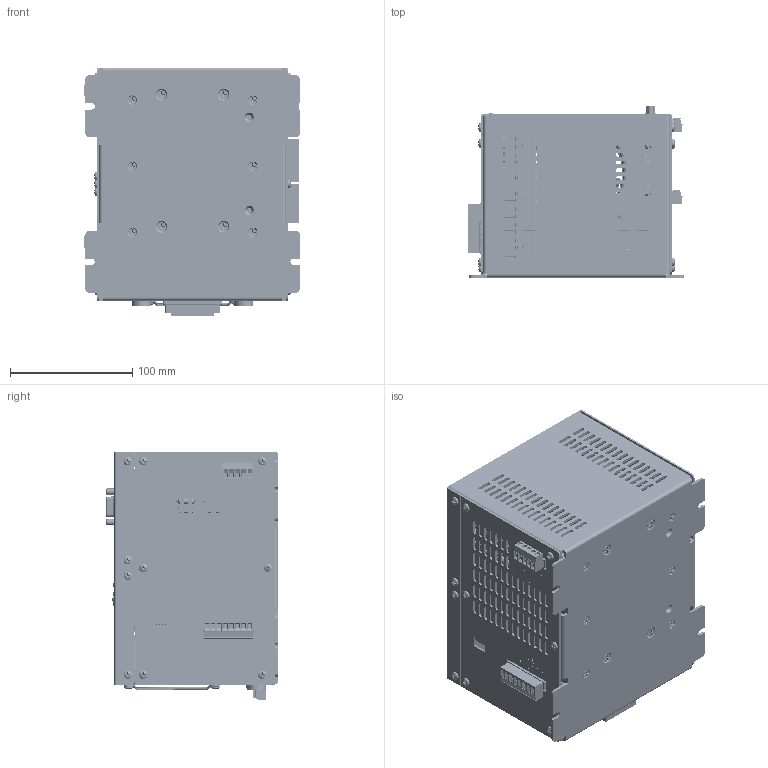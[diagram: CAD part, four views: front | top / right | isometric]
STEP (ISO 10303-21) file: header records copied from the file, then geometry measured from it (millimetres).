
FILE_DESCRIPTION (( 'STEP AP214' ), '1' );
FILE_NAME ('DPN10601.STEP', '2010-08-31T22:01:13', ( 'Tim Raines' ), ( 'Anaheim Automation' ), 'SwSTEP 2.0', 'SolidWorks 2010', '' );
FILE_SCHEMA (( 'AUTOMOTIVE_DESIGN' ));
Length unit declared in the file: inch
Products named in the file (76): Pan Cross Head_AI_CR-PHMS 0.138-32x0.5625x0.5625-S; 1803439; 1803633; FAN-GUARD; Heat Sink, MBC10641; AA4675APCB; Internal Tooth-lock Washers_AI_Internal Tooth LW Type A-0.138; Machine Screw Nut Hex_AI_MSHXNUT 0.164-32-D-S; AA4675A-2PCB; Standoff, 6-32x.250, ROUND_6-32 x .188; Pan Cross Head_AI_CR-PHMS 0.086-56x0.375x0.375-S; Machine Screw Nut Hex_AI_MSHXNUT 0.138-32-D-S; Internal Tooth-lock Washers_AI_Internal Tooth LW Type A-0.164; Flat Washer Type A Narrow_AI_Preferred Narrow FW 0.164; Flat Head Screw_AI_CR-FHMS 0.164-32x0.5x0.5-S; Round Head Screw_AI_CR-RHMS 0.19-32x1.375x1-S; External Tooth Lock Washer_AI_ASME B18.21.1 - 0.195; Flat Washer Type A Narrow_AI_Preferred Narrow FW 0.078; 1829400; FSH-342038L; Transformer, AA3621; 1827774; AA4160BPCB; AA4160B-2PCB; Flat Head Screw_AI_CR-FHMS 0.138-32x0.25x0.25-S; QDS-836; 1755574; Mounting Bracket, DPN version MBC10641; NUT, FSH-382038L; 1754504; 1754562; 1803442; 1755545; Pan Cross Head_AI_CR-PHMS 0.138-32x0.375x0.375-S; SWT-219-4MST; ICS-LM35DT_; TRS-IRF540N_; Pan Cross Head_AI_CR-PHMS 0.138-32x0.5625x0.5625-N; LED-RA Series_LED-0001; POT-0018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
Assembly tree (183 placements, depth 3):
  DPN10601
    Pan Cross Head_AI_CR-PHMS 0.138-32x0.25x0.25-S  x19
    1754504
    Flat Head Screw_AI_CR-FHMS 0.138-32x0.25x0.25-S  x6
    1829400
    NUT, FSH-382038L  x2
    Internal Tooth-lock Washers_AI_Internal Tooth LW Type A-0.164  x4
    Machine Screw Nut Hex_AI_MSHXNUT 0.138-32-D-S  x4
    Machine Screw Nut Hex_AI_MSHXNUT 0.164-32-D-S  x8
    FAN-GUARD
    1803646
    Round Head Screw_AI_CR-RHMS 0.19-32x1.375x1-S  x4
    Chassis, DPN10 Series
    1803581
    Pan Cross Head_AI_CR-PHMS 0.138-32x0.5625x0.5625-S  x4
    Flat Head Screw_AI_CR-FHMS 0.164-32x0.5x0.5-S  x4
    Top Plate, DPN10601
    Internal Tooth-lock Washers_AI_Internal Tooth LW Type A-0.138  x4
    Flat Washer Type A Narrow_AI_Preferred Narrow FW 0.078  x4
    FAN-0003
    AA4160B-2PCB
      Pan Cross Head_AI_CR-PHMS 0.112-40x0.25x0.25-S
      Pan Cross Head_AI_CR-PHMS 0.138-32x0.5x0.5-S  x4
      Internal Tooth-lock Washers_AI_Internal Tooth LW Type A-0.086  x2
      1803439
      Mounting Bracket, PCL601, DPN10601
      CON-H2R09RA29B
      LED-0006
      VRG-7805
      1803484
      WSH-KE3049
      1803471
      Standoff, 6-32x.250, ROUND_6-32 x .250  x4
      SWT-KST241GLFS
      Machine Screw Nut Hex_AI_MSHXNUT 0.099-56-D-S  x2
      CON-H9081
      CAP-0144  x2
      Standoff, 6-32x.250, ROUND_6-32 X .312  x2
      1803442
      Pan Cross Head_AI_CR-PHMS 0.112-40x0.375x0.375-S  x2
      AA4160BPCB
      1803497
      SWT-5-1437581-6
    1754562
    AA4675A-2PCB
      TRS-IRF540N_  x8
      DIO-KBU8G_Long pins
      AA4675APCB
      Mounting Bracket, DPN version MBC10641
      Pan Cross Head_AI_CR-PHMS 0.112-40x0.25x0.25-S  x9
      1755574
      WSH-KE3049  x9
      RES-3W-.05  x4
      QDS-836  x3
      ICS-LM35DT_
      Standoff, 6-32x.250, ROUND_6-32 x .188  x2
      CAP-0129
      Standoff, 6-32x.250, ROUND_6-32 x .250  x2
      Flat Head Screw_AI_CR-FHMS 0.138-32x0.25x0.25-S
      Heat Sink, MBC10641
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Bounding box: 176.22 x 140.17 x 203.5 mm (x, y, z)
Volume: 1084206.5 mm3; surface area: 607922.8 mm2
Topology: 189 solids, 189 shells, 24113 faces, 62479 edges, 40057 vertices
Faces by surface type: plane 11957, cylinder 5523, cone 3869, bspline 2377, torus 250, sphere 137
Entity records: 851432 total; most frequent: CARTESIAN_POINT 224586, ORIENTED_EDGE 91040, DIRECTION 79552, EDGE_CURVE 45520, LINE 30694, VECTOR 30694, VERTEX_POINT 29645, AXIS2_PLACEMENT_3D 24429
